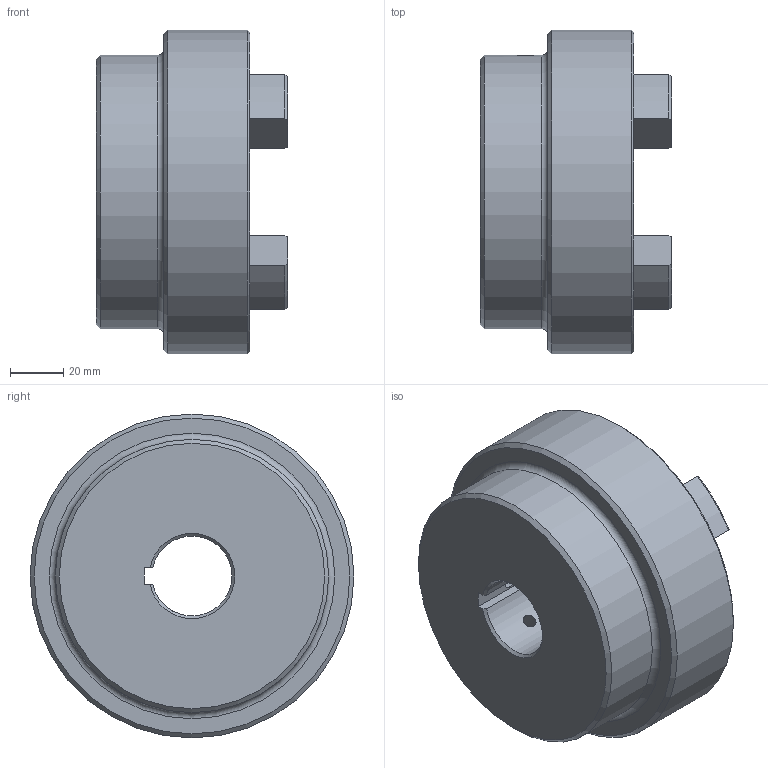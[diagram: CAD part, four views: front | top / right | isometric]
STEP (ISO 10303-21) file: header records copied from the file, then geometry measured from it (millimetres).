
FILE_DESCRIPTION (( 'STEP AP203' ), '1' );
FILE_NAME ('RC5.step', '2024-07-25T13:23:11', ( 'Adlan' ), ( '' ), 'SwSTEP 2.0', 'SolidWorks 2013', '' );
FILE_SCHEMA (( 'CONFIG_CONTROL_DESIGN' ));
Length unit declared in the file: inch
Products named in the file (1): RC5
Bounding box: 72.14 x 122.17 x 122.17 mm (x, y, z)
Volume: 447848.9 mm3; surface area: 59459 mm2
Topology: 1 solids, 1 shells, 83 faces, 210 edges, 131 vertices
Faces by surface type: cylinder 33, plane 19, torus 17, cone 14
Full cylindrical faces by diameter (mm): 5.105 x2, 103.124 x1, 122.174 x1
Entity records: 2759 total; most frequent: CARTESIAN_POINT 678, DIRECTION 446, ORIENTED_EDGE 394, EDGE_CURVE 197, AXIS2_PLACEMENT_3D 178, VERTEX_POINT 128, EDGE_LOOP 101, CIRCLE 94
